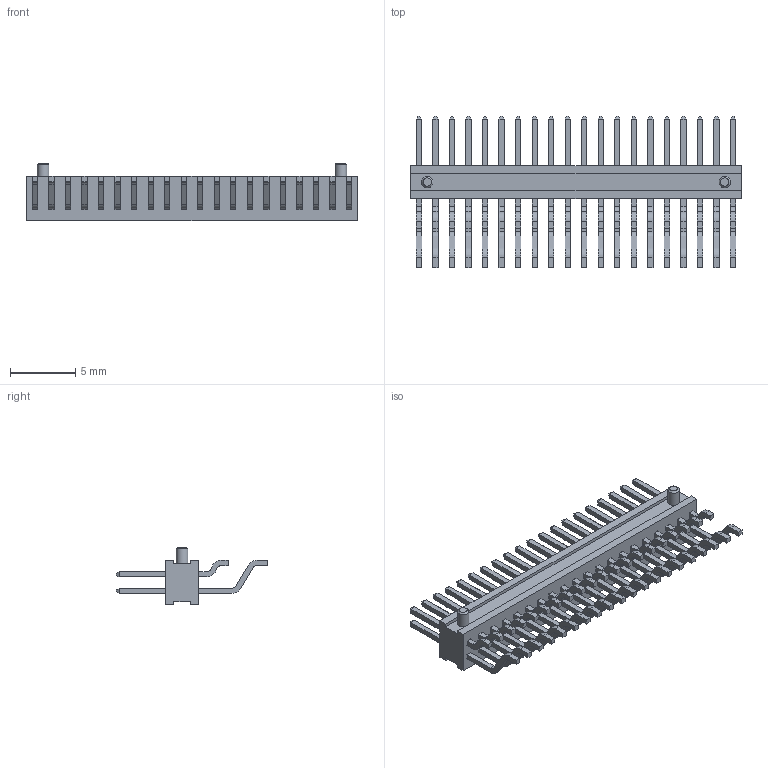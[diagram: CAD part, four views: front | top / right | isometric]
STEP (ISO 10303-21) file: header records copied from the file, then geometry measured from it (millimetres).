
FILE_DESCRIPTION(/* description */ ('STEP AP214'),/* implementation_level */ '2;1');
FILE_NAME(/* name */ 'FTSH-120-04-F-DH-A',/* time_stamp */ '2025-06-22T21:28:54+02:00',/* author */ ('License CC BY-ND 4.0'),/* organization */ ('CADENAS'),/* preprocessor_version */ 'ST-DEVELOPER v19.3',/* originating_system */ 'PARTsolutions',/* authorisation */ ' ');
FILE_SCHEMA (('AUTOMOTIVE_DESIGN {1 0 10303 214 3 1 1}'));
Length unit declared in the file: inch
Products named in the file (4): FTSH-120-04-F-DH-A; FTSH-120-04-F-DH-A_body; FTSH-120-04-F-DH-A_pins1; FTSH-120-04-F-DH-A_pins2
Assembly tree (3 placements, depth 2):
  FTSH-120-04-F-DH-A
    FTSH-120-04-F-DH-A_body
    FTSH-120-04-F-DH-A_pins1
    FTSH-120-04-F-DH-A_pins2
Bounding box: 25.4 x 11.66 x 4.45 mm (x, y, z)
Volume: 264.9 mm3; surface area: 1222.3 mm2
Topology: 3 solids, 3 shells, 1022 faces, 2882 edges, 1868 vertices
Faces by surface type: plane 858, cylinder 162, cone 2
Full cylindrical faces by diameter (mm): 0.889 x2
Entity records: 32659 total; most frequent: CARTESIAN_POINT 5768, ORIENTED_EDGE 5752, DIRECTION 5254, EDGE_CURVE 2876, LINE 2550, VECTOR 2550, VERTEX_POINT 1866, AXIS2_PLACEMENT_3D 1352
